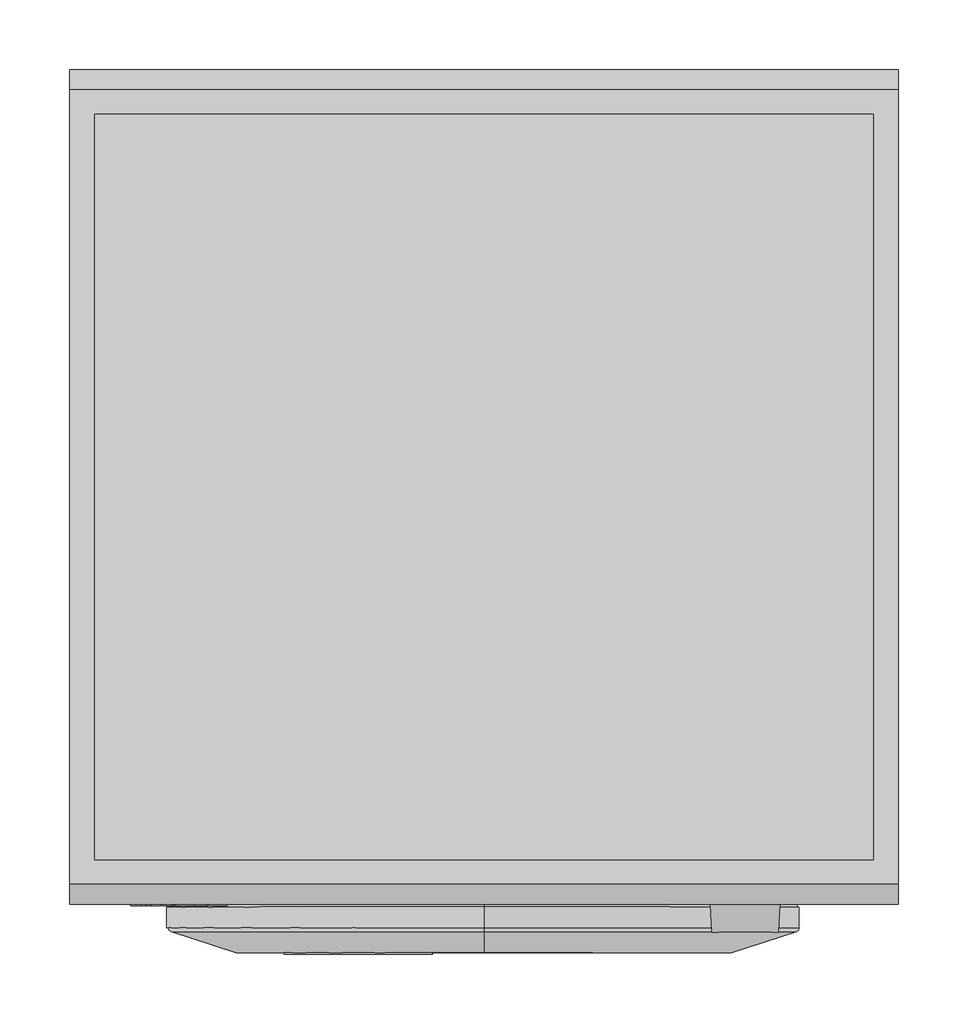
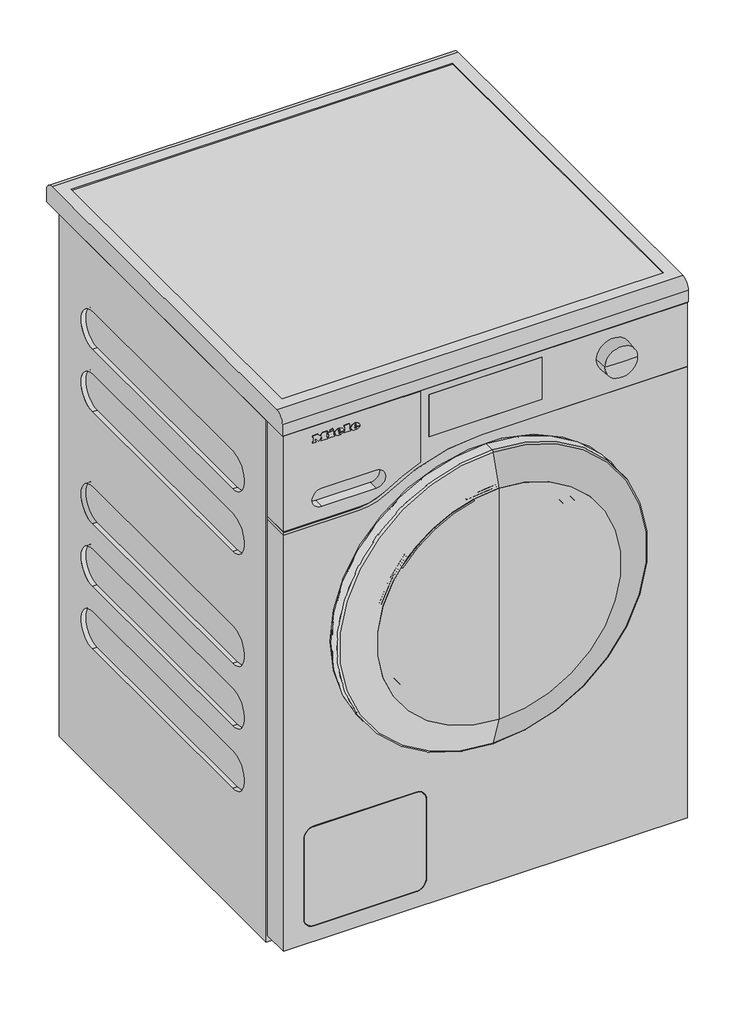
# Not in any storey: 1 proxy.
"""IFC4 building model written with IfcOpenShell, lengths in millimetres."""

from ifc_helpers import new_model, si_unit, origin, place, context, project, spatial, transform, mapped, element, save
from components import specialty_equipment_48e7e25c, specialty_equipment_4a6f3dc0

model = new_model("IFC4")

# Units and contexts
model_context = context("Model", 3, world=origin())
ifc_project = project(units=[si_unit("LENGTHUNIT", "METRE", prefix="MILLI")], contexts=[model_context])

# Site, building
site = spatial("IfcSite", under=ifc_project)
building = spatial("IfcBuilding", under=site)

# Proxy
placement = place(None, origin())
specialty_equipment_shape = specialty_equipment_48e7e25c(model_context)
specialty_equipment_2_shape = specialty_equipment_4a6f3dc0(model_context)
element("IfcBuildingElementProxy", 1, Name="11516910_PL_WSA023WCS_LW : 11SA0231_PL_11516910_WSA023WCS_LW", ObjectType="11516910_PL_WSA023WCS_LW : 11SA0231_PL_11516910_WSA023WCS_LW", at=placement, inside=building, context=model_context, shape_type="MappedRepresentation", body=[
    mapped(specialty_equipment_shape, transform((0.0, 0.0, 0.0), x_axis=(1.0, 0.0, 0.0), y_axis=(0.0, 1.0, 0.0), z_axis=(0.0, 0.0, 1.0))),
    mapped(specialty_equipment_2_shape, transform((0.0, 0.0, 0.0), x_axis=(1.0, 0.0, 0.0), y_axis=(0.0, 1.0, 0.0), z_axis=(0.0, 0.0, 1.0))),
])

save(model, "model.ifc")
